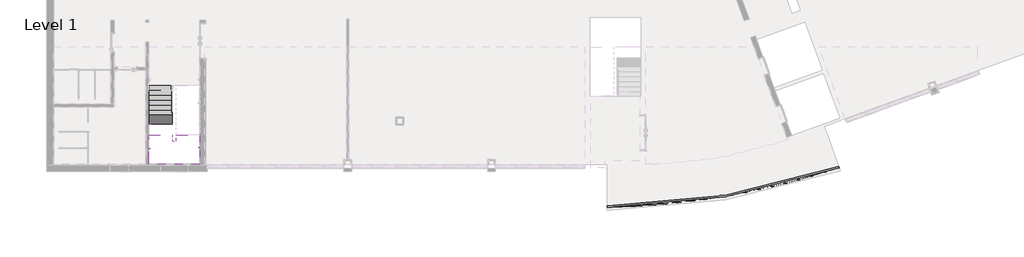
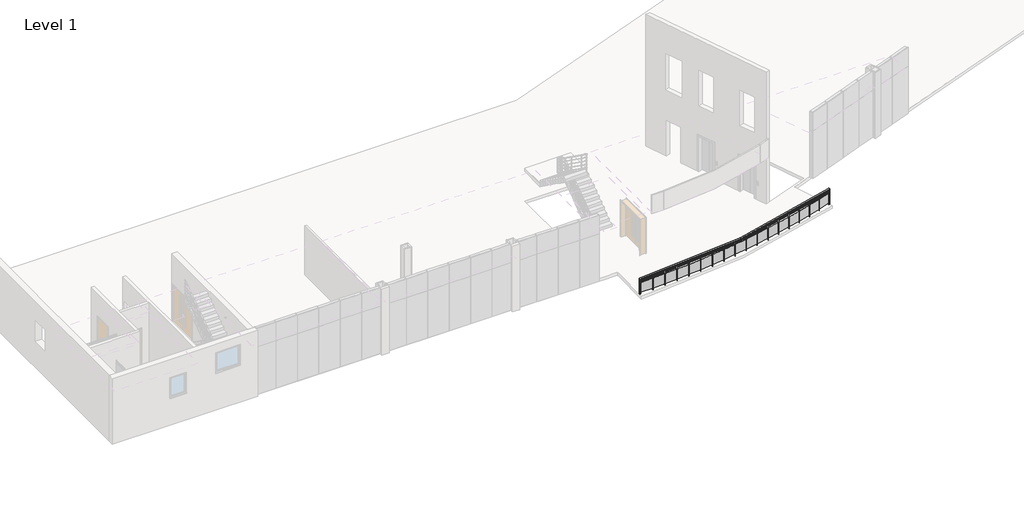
# One storey, part 8 of 12: 4 proxies, 1 railing, 1 slab, 1 stair flight.
"""IFC4 building model written with IfcOpenShell, lengths in millimetres."""

from ifc_helpers import new_model, si_unit, point, frame, frame_2d, origin, place, context, project, spatial, polyline, circle_curve, ellipse_curve, trimmed, segment, composite_curve, outline, extrude, faceted_brep, transform, mapped, element, save
from ifc_brep_helpers import plane_surface, revolved_surface, advanced_brep
from components import support_metal_circular_support_metal_circular_016e83f0

model = new_model("IFC4")

# Units and contexts
model_context = context("Model", 3, world=origin())
ifc_project = project(units=[si_unit("LENGTHUNIT", "METRE", prefix="MILLI")], contexts=[model_context])

# Site, building, storey
site = spatial("IfcSite", under=ifc_project)
building = spatial("IfcBuilding", under=site)
storey = spatial("IfcBuildingStorey", under=building, Name="Level 1", Elevation=3900.0)

# Proxies
placement = place(None, origin())
support_metal_circular_support_metal_circular_shape = support_metal_circular_support_metal_circular_016e83f0(model_context)
element("IfcBuildingElementProxy", 1, Name="Support - Metal - Circular : Support - Metal - Circular", ObjectType="Support - Metal - Circular : Support - Metal - Circular", at=placement, inside=storey, context=model_context, shape_type="MappedRepresentation", body=[
    mapped(support_metal_circular_support_metal_circular_shape, transform((5322.6000025, 3439.4755703, 5569.9627774), x_axis=(0.0, 1.0, 0.0), y_axis=(-1.0, 0.0, 0.0), z_axis=(0.0, 0.0, 1.0))),
])
element("IfcBuildingElementProxy", 2, Name="Support - Metal - Circular : Support - Metal - Circular", ObjectType="Support - Metal - Circular : Support - Metal - Circular", at=placement, inside=storey, context=model_context, shape_type="MappedRepresentation", body=[
    mapped(support_metal_circular_support_metal_circular_shape, transform((5322.6000025, 2334.2312733, 6353.6814608), x_axis=(0.0, 1.0, 0.0), y_axis=(-1.0, 0.0, 0.0), z_axis=(0.0, 0.0, 1.0))),
])
element("IfcBuildingElementProxy", 3, Name="Support - Metal - Circular : Support - Metal - Circular", ObjectType="Support - Metal - Circular : Support - Metal - Circular", at=placement, inside=storey, context=model_context, shape_type="MappedRepresentation", body=[
    mapped(support_metal_circular_support_metal_circular_shape, transform((5322.6000025, 1100.0, 6732.5), x_axis=(0.0, 1.0, 0.0), y_axis=(-1.0, 0.0, 0.0), z_axis=(0.0, 0.0, 1.0))),
])
element("IfcBuildingElementProxy", 4, Name="Support - Metal - Circular : Support - Metal - Circular", ObjectType="Support - Metal - Circular : Support - Metal - Circular", at=placement, inside=storey, context=model_context, shape_type="MappedRepresentation", body=[
    mapped(support_metal_circular_support_metal_circular_shape, transform((7761.8000024, 1150.0, 6732.5), x_axis=(0.0, -1.0, 0.0), y_axis=(1.0, 0.0, 0.0), z_axis=(0.0, 0.0, 1.0))),
])

# Railing
element("IfcRailing", 5, ObjectType="Glass_Panel-Bottom_Fill", at=placement, inside=storey, context=model_context, shape_type="SolidModel", body=[
    advanced_brep(
    [(40308.8689844, 181.3840931, 4800.0), (28548.6661194, -1809.3617636, 4800.0), (28549.739034, -1889.3545686, 4800.0), (40334.1834987, 105.4948622, 4800.0)],
    [
        (0, 1, circle_curve(frame((28028.1685328, 36997.1374158, 4800.0), z_axis=(0.0, 0.0, -1.0), x_axis=(0.013411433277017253, -0.9999100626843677, 0.0)), 38809.9896457)),
        (1, 2, ellipse_curve(frame((28549.2025767, -1849.3581661, 4800.0), z_axis=(0.9999100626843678, 0.013411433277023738, 0.0), x_axis=(0.013411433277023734, -0.9999100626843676, 0.0)), 40.0, 30.0)),
        (2, 3, circle_curve(frame((28028.1685328, 36997.1374158, 4800.0), z_axis=(0.0, 0.0, 1.0), x_axis=(0.013411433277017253, -0.9999100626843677, 0.0)), 38889.9896457)),
        (3, 0, ellipse_curve(frame((40321.5262416, 143.4394777, 4800.0), z_axis=(-0.9486153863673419, -0.3164314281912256, 0.0), x_axis=(0.3164314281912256, -0.9486153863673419, 0.0)), 40.0, 30.0)),
        (2, 1, ellipse_curve(frame((28549.2025767, -1849.3581661, 4800.0), z_axis=(0.9999100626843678, 0.013411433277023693, 0.0), x_axis=(0.013411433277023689, -0.9999100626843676, 0.0)), 40.0, 30.0)),
        (0, 3, ellipse_curve(frame((40321.5262416, 143.4394777, 4800.0), z_axis=(-0.9486153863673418, -0.31643142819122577, 0.0), x_axis=(0.31643142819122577, -0.9486153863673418, 0.0)), 40.0, 30.0)),
    ],
    [
        revolved_surface(trimmed(ellipse_curve(frame((28549.2025767, -1849.3581661, 4800.0), z_axis=(-0.9999100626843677, -0.013411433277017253, 0.0), x_axis=(0.013411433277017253, -0.9999100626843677, 0.0)), 40.0, 30.0), [point((28549.739034, -1889.3545686, 4800.0))], [point((28548.6661194, -1809.3617636, 4800.0))], True, "CARTESIAN"), (28028.1685328, 36997.1374158, 4800.0), (0.0, 0.0, 1.0)),
        revolved_surface(trimmed(ellipse_curve(frame((28549.2025767, -1849.3581661, 4800.0), z_axis=(-0.9999100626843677, -0.013411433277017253, 0.0), x_axis=(0.013411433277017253, -0.9999100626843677, 0.0)), 40.0, 30.0), [point((28548.6661194, -1809.3617636, 4800.0))], [point((28549.739034, -1889.3545686, 4800.0))], True, "CARTESIAN"), (28028.1685328, 36997.1374158, 4800.0), (0.0, 0.0, 1.0)),
        plane_surface(frame((28549.2025767, -1849.3581661, 4800.0), z_axis=(-0.9999100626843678, -0.013411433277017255, 0.0), x_axis=(0.013411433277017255, -0.9999100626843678, 0.0))),
        plane_surface(frame((40321.5262416, 143.4394777, 4800.0), z_axis=(0.9486153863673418, 0.3164314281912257, 0.0), x_axis=(0.3164314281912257, -0.9486153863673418, 0.0))),
    ],
    [
        (0, [[1, 2, 3, 4]]),
        (1, [[-3, 5, -1, 6]]),
        (2, [[-5, -2]]),
        (3, [[-4, -6]]),
    ],
),
    extrude(outline(composite_curve([segment(trimmed(circle_curve(frame_2d((28028.1685328, 36997.1374158)), 38859.3804108), [point((40324.4977748, 134.5312533))], [point((28549.3285203, -1858.7480867))], False, "CARTESIAN"), True, "CONTINUOUS"), segment(polyline([(28549.3285203, -1858.7480867), (28549.0602917, -1838.7498855)]), True, "CONTINUOUS"), segment(trimmed(circle_curve(frame_2d((28028.1685328, 36997.1374158)), 38839.3804108), [point((28549.0602917, -1838.7498855))], [point((40318.1691462, 153.5035611))], True, "CARTESIAN"), True, "CONTINUOUS"), segment(polyline([(40318.1691462, 153.5035611), (40324.4977748, 134.5312533)]), True, "CONTINUOUS")], self_intersect=False)), frame((0.0, 0.0, 4680.0), z_axis=(0.0, 0.0, 1.0), x_axis=(1.0, 0.0, 0.0)), (0.0, 0.0, 1.0), 20.0),
    extrude(outline(composite_curve([segment(trimmed(circle_curve(frame_2d((28028.1685328, 36997.1374158)), 38859.3804108), [point((40324.4977748, 134.5312533))], [point((28549.3285203, -1858.7480867))], False, "CARTESIAN"), True, "CONTINUOUS"), segment(polyline([(28549.3285203, -1858.7480867), (28549.0602917, -1838.7498855)]), True, "CONTINUOUS"), segment(trimmed(circle_curve(frame_2d((28028.1685328, 36997.1374158)), 38839.3804108), [point((28549.0602917, -1838.7498855))], [point((40318.1691462, 153.5035611))], True, "CARTESIAN"), True, "CONTINUOUS"), segment(polyline([(40318.1691462, 153.5035611), (40324.4977748, 134.5312533)]), True, "CONTINUOUS")], self_intersect=False)), frame((0.0, 0.0, 4580.0), z_axis=(0.0, 0.0, 1.0), x_axis=(1.0, 0.0, 0.0)), (0.0, 0.0, 1.0), 20.0),
    extrude(outline(polyline([(40266.4314409, 152.0906486), (40277.8190754, 155.8750613), (40293.5874619, 108.4265841), (40282.1998274, 104.6421714), (40266.4314409, 152.0906486)])), frame((0.0, 0.0, 3900.0), z_axis=(0.0, 0.0, 1.0), x_axis=(1.0, 0.0, 0.0)), (0.0, 0.0, 1.0), 869.8465326),
    extrude(outline(polyline([(39614.7863131, -87.6460581), (40281.0268462, 127.1178871), (40282.5608743, 122.3590262), (39616.3203413, -92.404919), (39614.7863131, -87.6460581)])), frame((0.0, 0.0, 4000.0), z_axis=(0.0, 0.0, 1.0), x_axis=(1.0, 0.0, 0.0)), (0.0, 0.0, 1.0), 580.0),
    extrude(outline(polyline([(39600.5954794, -62.4292958), (39612.0494504, -58.8506721), (39626.9603824, -106.5755515), (39615.5064114, -110.1541752), (39600.5954794, -62.4292958)])), frame((0.0, 0.0, 3900.0), z_axis=(0.0, 0.0, 1.0), x_axis=(1.0, 0.0, 0.0)), (0.0, 0.0, 1.0), 869.8465326),
    extrude(outline(polyline([(38944.7367146, -290.3861815), (39614.7385729, -87.6609738), (39616.1866101, -92.4467013), (38946.1847518, -295.1719091), (38944.7367146, -290.3861815)])), frame((0.0, 0.0, 4000.0), z_axis=(0.0, 0.0, 1.0), x_axis=(1.0, 0.0, 0.0)), (0.0, 0.0, 1.0), 580.0),
    extrude(outline(polyline([(38931.0025232, -264.9178317), (38942.5191122, -261.5461589), (38956.5677488, -309.5319464), (38945.0511598, -312.9036192), (38931.0025232, -264.9178317)])), frame((0.0, 0.0, 3900.0), z_axis=(0.0, 0.0, 1.0), x_axis=(1.0, 0.0, 0.0)), (0.0, 0.0, 1.0), 869.8465326),
    extrude(outline(polyline([(38271.1430463, -481.0208902), (38944.6887135, -290.4002347), (38946.0502896, -295.2112752), (38272.5046224, -485.8319306), (38271.1430463, -481.0208902)])), frame((0.0, 0.0, 4000.0), z_axis=(0.0, 0.0, 1.0), x_axis=(1.0, 0.0, 0.0)), (0.0, 0.0, 1.0), 580.0),
    extrude(outline(polyline([(38257.8699559, -455.309221), (38269.445424, -452.1455937), (38282.6272045, -500.3767109), (38271.0517364, -503.5403382), (38257.8699559, -455.309221)])), frame((0.0, 0.0, 3900.0), z_axis=(0.0, 0.0, 1.0), x_axis=(1.0, 0.0, 0.0)), (0.0, 0.0, 1.0), 869.8465326),
    extrude(outline(polyline([(37594.2239908, -659.4882942), (38271.0947997, -481.0340762), (38272.3694727, -485.8688677), (37595.4986637, -664.3230857), (37594.2239908, -659.4882942)])), frame((0.0, 0.0, 4000.0), z_axis=(0.0, 0.0, 1.0), x_axis=(1.0, 0.0, 0.0)), (0.0, 0.0, 1.0), 580.0),
    extrude(outline(polyline([(37581.4163106, -633.5416531), (37593.0468998, -630.5870983), (37605.3575445, -679.0478869), (37593.7269553, -682.0024416), (37581.4163106, -633.5416531)])), frame((0.0, 0.0, 3900.0), z_axis=(0.0, 0.0, 1.0), x_axis=(1.0, 0.0, 0.0)), (0.0, 0.0, 1.0), 869.8465326),
    extrude(outline(polyline([(36914.1993101, -825.7304543), (37594.1755144, -659.5006088), (37595.3628705, -664.3575817), (36915.3866661, -830.5874272), (36914.1993101, -825.7304543)])), frame((0.0, 0.0, 4000.0), z_axis=(0.0, 0.0, 1.0), x_axis=(1.0, 0.0, 0.0)), (0.0, 0.0, 1.0), 580.0),
    extrude(outline(polyline([(36901.8611981, -799.5572647), (36913.5431326, -796.8127417), (36924.9786449, -845.4874688), (36913.2967104, -848.2319918), (36901.8611981, -799.5572647)])), frame((0.0, 0.0, 3900.0), z_axis=(0.0, 0.0, 1.0), x_axis=(1.0, 0.0, 0.0)), (0.0, 0.0, 1.0), 869.8465326),
    extrude(outline(polyline([(36231.2897746, -979.6933996), (36914.1506197, -825.7418934), (36915.2502733, -830.6194709), (36232.3894282, -984.5709771), (36231.2897746, -979.6933996)])), frame((0.0, 0.0, 4000.0), z_axis=(0.0, 0.0, 1.0), x_axis=(1.0, 0.0, 0.0)), (0.0, 0.0, 1.0), 580.0),
    extrude(outline(polyline([(36219.4252364, -953.3021588), (36231.1547236, -950.7685586), (36241.7113911, -999.6414219), (36229.9819039, -1002.1750221), (36219.4252364, -953.3021588)])), frame((0.0, 0.0, 3900.0), z_axis=(0.0, 0.0, 1.0), x_axis=(1.0, 0.0, 0.0)), (0.0, 0.0, 1.0), 869.8465326),
    extrude(outline(polyline([(35545.7170914, -1121.3271461), (36231.2408861, -979.7039597), (36232.2524803, -984.6005582), (35546.7286856, -1126.2237447), (35545.7170914, -1121.3271461)])), frame((0.0, 0.0, 4000.0), z_axis=(0.0, 0.0, 1.0), x_axis=(1.0, 0.0, 0.0)), (0.0, 0.0, 1.0), 580.0),
    extrude(outline(polyline([(35534.3299789, -1094.726422), (35546.1032108, -1092.4045671), (35555.7776061, -1141.4597001), (35544.0043741, -1143.781555), (35534.3299789, -1094.726422)])), frame((0.0, 0.0, 3900.0), z_axis=(0.0, 0.0, 1.0), x_axis=(1.0, 0.0, 0.0)), (0.0, 0.0, 1.0), 869.8465326),
    extrude(outline(polyline([(34857.703832, -1250.5857124), (35545.6680206, -1121.3368236), (35546.5912269, -1126.2508536), (34858.6270383, -1255.4997423), (34857.703832, -1250.5857124)])), frame((0.0, 0.0, 4000.0), z_axis=(0.0, 0.0, 1.0), x_axis=(1.0, 0.0, 0.0)), (0.0, 0.0, 1.0), 580.0),
    extrude(outline(polyline([(34846.7978419, -1223.7841408), (34858.6109963, -1221.674785), (34867.3999787, -1270.8962619), (34855.5868242, -1273.0056177), (34846.7978419, -1223.7841408)])), frame((0.0, 0.0, 3900.0), z_axis=(0.0, 0.0, 1.0), x_axis=(1.0, 0.0, 0.0)), (0.0, 0.0, 1.0), 869.8465326),
    extrude(outline(polyline([(34167.4733602, -1367.4271344), (34857.6545947, -1250.5945042), (34858.4891135, -1255.5243701), (34168.307879, -1372.3570004), (34167.4733602, -1367.4271344)])), frame((0.0, 0.0, 4000.0), z_axis=(0.0, 0.0, 1.0), x_axis=(1.0, 0.0, 0.0)), (0.0, 0.0, 1.0), 580.0),
    extrude(outline(polyline([(34157.0520331, -1340.4334166), (34168.901275, -1338.5372447), (34176.8019911, -1387.9090857), (34164.9527492, -1389.8052576), (34157.0520331, -1340.4334166)])), frame((0.0, 0.0, 3900.0), z_axis=(0.0, 0.0, 1.0), x_axis=(1.0, 0.0, 0.0)), (0.0, 0.0, 1.0), 869.8465326),
    extrude(outline(polyline([(33475.2497597, -1471.8134797), (34167.4239725, -1367.4350377), (34168.1695328, -1372.3791392), (33475.99532, -1476.7575812), (33475.2497597, -1471.8134797)])), frame((0.0, 0.0, 4000.0), z_axis=(0.0, 0.0, 1.0), x_axis=(1.0, 0.0, 0.0)), (0.0, 0.0, 1.0), 580.0),
    extrude(outline(polyline([(33465.3164791, -1444.6363791), (33477.1979614, -1442.9540068), (33484.2078462, -1492.4601833), (33472.3263639, -1494.1425556), (33465.3164791, -1444.6363791)])), frame((0.0, 0.0, 3900.0), z_axis=(0.0, 0.0, 1.0), x_axis=(1.0, 0.0, 0.0)), (0.0, 0.0, 1.0), 869.8465326),
    extrude(outline(polyline([(32781.2577613, -1563.7108591), (33475.2002376, -1471.8204918), (33475.8565974, -1476.7772238), (32781.9141211, -1568.667591), (32781.2577613, -1563.7108591)])), frame((0.0, 0.0, 4000.0), z_axis=(0.0, 0.0, 1.0), x_axis=(1.0, 0.0, 0.0)), (0.0, 0.0, 1.0), 580.0),
    extrude(outline(polyline([(32771.8157519, -1536.3591988), (32783.7256175, -1534.8911722), (32789.8423953, -1584.515612), (32777.9325297, -1585.9836387), (32771.8157519, -1536.3591988)])), frame((0.0, 0.0, 3900.0), z_axis=(0.0, 0.0, 1.0), x_axis=(1.0, 0.0, 0.0)), (0.0, 0.0, 1.0), 869.8465326),
    extrude(outline(polyline([(32085.72267, -1643.089438), (32781.208121, -1563.7169778), (32781.7750671, -1568.684731), (32086.2896161, -1648.0571912), (32085.72267, -1643.089438)])), frame((0.0, 0.0, 4000.0), z_axis=(0.0, 0.0, 1.0), x_axis=(1.0, 0.0, 0.0)), (0.0, 0.0, 1.0), 580.0),
    extrude(outline(polyline([(32076.7749971, -1615.5720979), (32088.7093793, -1614.3188935), (32093.9310643, -1664.045486), (32081.9966821, -1665.2986904), (32076.7749971, -1615.5720979)])), frame((0.0, 0.0, 3900.0), z_axis=(0.0, 0.0, 1.0), x_axis=(1.0, 0.0, 0.0)), (0.0, 0.0, 1.0), 869.8465326),
    extrude(outline(polyline([(31388.8702915, -1709.9234463), (32085.6729274, -1643.0946614), (32086.1502759, -1648.0718231), (31389.3476399, -1714.900608), (31388.8702915, -1709.9234463)])), frame((0.0, 0.0, 4000.0), z_axis=(0.0, 0.0, 1.0), x_axis=(1.0, 0.0, 0.0)), (0.0, 0.0, 1.0), 580.0),
    extrude(outline(polyline([(31380.4198601, -1682.2493597), (31392.3748844, -1681.2113844), (31396.6997813, -1731.0239859), (31384.7447569, -1732.0619612), (31380.4198601, -1682.2493597)])), frame((0.0, 0.0, 3900.0), z_axis=(0.0, 0.0, 1.0), x_axis=(1.0, 0.0, 0.0)), (0.0, 0.0, 1.0), 869.8465326),
    extrude(outline(polyline([(30690.9268593, -1764.1911861), (31388.8204629, -1709.9277726), (31389.2080587, -1714.9127269), (30691.3144551, -1769.1761404), (30690.9268593, -1764.1911861)])), frame((0.0, 0.0, 4000.0), z_axis=(0.0, 0.0, 1.0), x_axis=(1.0, 0.0, 0.0)), (0.0, 0.0, 1.0), 580.0),
    extrude(outline(polyline([(30682.9764127, -1736.3693375), (30694.948198, -1735.5469284), (30698.3749028, -1785.4293671), (30686.4031175, -1786.2517763), (30682.9764127, -1736.3693375)])), frame((0.0, 0.0, 3900.0), z_axis=(0.0, 0.0, 1.0), x_axis=(1.0, 0.0, 0.0)), (0.0, 0.0, 1.0), 869.8465326),
    extrude(outline(polyline([(29992.1189611, -1805.8750395), (30690.8769608, -1764.1946139), (30691.1746782, -1769.1857425), (29992.4166785, -1810.8661681), (29992.1189611, -1805.8750395)])), frame((0.0, 0.0, 4000.0), z_axis=(0.0, 0.0, 1.0), x_axis=(1.0, 0.0, 0.0)), (0.0, 0.0, 1.0), 580.0),
    extrude(outline(polyline([(29984.6710806, -1777.9144613), (29996.6557402, -1777.3078852), (29999.1831403, -1827.2439669), (29987.1984807, -1827.8505429), (29984.6710806, -1777.9144613)])), frame((0.0, 0.0, 3900.0), z_axis=(0.0, 0.0, 1.0), x_axis=(1.0, 0.0, 0.0)), (0.0, 0.0, 1.0), 869.8465326),
    extrude(outline(polyline([(29292.6734654, -1834.9614737), (29992.069009, -1805.8775677), (29992.2767512, -1810.8732502), (29292.8812076, -1839.9571562), (29292.6734654, -1834.9614737)])), frame((0.0, 0.0, 4000.0), z_axis=(0.0, 0.0, 1.0), x_axis=(1.0, 0.0, 0.0)), (0.0, 0.0, 1.0), 580.0),
    extrude(outline(polyline([(29285.7305689, -1806.8712433), (29297.7242119, -1806.4806973), (29299.3514869, -1856.45421), (29287.3578438, -1856.844756), (29285.7305689, -1806.8712433)])), frame((0.0, 0.0, 3900.0), z_axis=(0.0, 0.0, 1.0), x_axis=(1.0, 0.0, 0.0)), (0.0, 0.0, 1.0), 869.8465326),
    extrude(outline(polyline([(28592.8174475, -1851.4410459), (29292.6234759, -1834.9631015), (29292.7411755, -1839.961716), (28592.9351471, -1856.4396604), (28592.8174475, -1851.4410459)])), frame((0.0, 0.0, 4000.0), z_axis=(0.0, 0.0, 1.0), x_axis=(1.0, 0.0, 0.0)), (0.0, 0.0, 1.0), 580.0),
    extrude(outline(polyline([(28586.3817889, -1823.2302827), (28598.3805217, -1823.0558936), (28599.1071432, -1873.0506135), (28587.1084105, -1873.2250027), (28586.3817889, -1823.2302827)])), frame((0.0, 0.0, 3900.0), z_axis=(0.0, 0.0, 1.0), x_axis=(1.0, 0.0, 0.0)), (0.0, 0.0, 1.0), 869.8465326),
    extrude(outline(polyline([(40305.8348586, 165.2020895), (40317.2184387, 168.9986806), (40333.0375683, 121.5670968), (40321.6539882, 117.7705057), (40305.8348586, 165.2020895)])), frame((0.0, 0.0, 3900.0), z_axis=(0.0, 0.0, 1.0), x_axis=(1.0, 0.0, 0.0)), (0.0, 0.0, 1.0), 869.8465326),
    extrude(outline(polyline([(28544.8581965, -1823.8051549), (28556.8571089, -1823.6436), (28557.5302544, -1873.6390686), (28545.5313419, -1873.8006235), (28544.8581965, -1823.8051549)])), frame((0.0, 0.0, 3900.0), z_axis=(0.0, 0.0, 1.0), x_axis=(1.0, 0.0, 0.0)), (0.0, 0.0, 1.0), 869.8465326),
])

# Slab
element("IfcSlab", 6, ObjectType="8\" Thickness", at=placement, inside=storey, context=model_context, shape_type="SolidModel", body=[
    faceted_brep([(6447.2000025, 1800.0, 5849.0), (5247.2000025, 1800.0, 5849.0), (5247.2000025, 1572.7280846, 5849.0), (5247.2000025, 300.0000001, 5849.0), (7837.2000024, 300.0000001, 5849.0), (7837.2000024, 1777.2719153, 5849.0), (7837.2000024, 1800.0, 5849.0), (6637.2000026, 1800.0, 5849.0), (6637.2000026, 1777.2719153, 5849.0), (6637.2000026, 1500.0, 5849.0), (6447.2000025, 1500.0, 5849.0), (6447.2000025, 1572.7280846, 5849.0), (6447.2000025, 1800.0, 5487.8435509), (6447.2000025, 1800.0, 5671.7272727), (6447.2000025, 1500.0, 5649.0), (6447.2000025, 1572.7280846, 5649.0), (5247.2000025, 1800.0, 5671.7272727), (5247.2000025, 1800.0, 5487.8435509), (5247.2000025, 1572.7280846, 5649.0), (5247.2000025, 300.0000001, 5649.0), (6637.2000026, 1800.0, 5665.1162782), (6637.2000026, 1777.2719153, 5649.0), (6637.2000026, 1500.0, 5649.0), (7837.2000024, 1777.2719153, 5649.0), (7837.2000024, 300.0000001, 5649.0), (7837.2000024, 1800.0, 5665.1162782)], [[[0, 1, 2, 3, 4, 5, 6, 7, 8, 9, 10, 11]], [[12, 13, 0, 11, 10, 14, 15]], [[1, 16, 17, 18, 19, 3, 2]], [[7, 20, 21, 22, 9, 8]], [[18, 15, 14, 22, 21, 23, 24, 19]], [[15, 18, 17, 12]], [[23, 21, 20, 25]], [[1, 0, 13, 12, 17, 16]], [[4, 3, 19, 24]], [[4, 24, 23, 25, 6, 5]], [[7, 6, 25, 20]], [[10, 9, 22, 14]]]),
    extrude(outline(polyline([(6447.2000025, 1800.0), (6447.2000025, 1500.0), (6637.2000026, 1500.0), (6637.2000026, 1800.0), (7837.2000024, 1800.0), (7837.2000024, 300.0000001), (5247.2000025, 300.0000001), (5247.2000025, 1800.0), (6447.2000025, 1800.0)])), frame((0.0, 0.0, 5849.0), z_axis=(0.0, 0.0, 1.0), x_axis=(1.0, 0.0, 0.0)), (0.0, 0.0, 1.0), 1.0),
])

# Stair flight
element("IfcStairFlight", 7, ObjectType="1/16\"_Tread-6\"_Depth", at=placement, inside=storey, context=model_context, shape_type="SolidModel", body=[
    faceted_brep([(6447.2000025, 4050.0, 4076.2727273), (6447.2000025, 4300.0, 4076.2727273), (5247.2000025, 4300.0, 4076.2727273), (5247.2000025, 4050.0, 4076.2727273), (6447.2000025, 4050.0, 3900.0), (6447.2000025, 4300.0, 3900.0), (5247.2000025, 4300.0, 3900.0), (5247.2000025, 4050.0, 3900.0), (6447.2000025, 3800.0, 4253.5454545), (6447.2000025, 4050.0, 4253.5454545), (5247.2000025, 4050.0, 4253.5454545), (5247.2000025, 3800.0, 4253.5454545), (6447.2000025, 3800.0, 4069.6617328), (6447.2000025, 4039.2665462, 3900.0), (5247.2000025, 4039.2665462, 3900.0), (5247.2000025, 3800.0, 4069.6617328), (6447.2000025, 3550.0, 4430.8181818), (6447.2000025, 3800.0, 4430.8181818), (5247.2000025, 3800.0, 4430.8181818), (5247.2000025, 3550.0, 4430.8181818), (6447.2000025, 3550.0, 4246.93446), (5247.2000025, 3550.0, 4246.93446), (6447.2000025, 3300.0, 4608.0909091), (6447.2000025, 3550.0, 4608.0909091), (5247.2000025, 3550.0, 4608.0909091), (5247.2000025, 3300.0, 4608.0909091), (6447.2000025, 3300.0, 4424.2071873), (5247.2000025, 3300.0, 4424.2071873), (6447.2000025, 3050.0, 4785.3636364), (6447.2000025, 3300.0, 4785.3636364), (5247.2000025, 3300.0, 4785.3636364), (5247.2000025, 3050.0, 4785.3636364), (6447.2000025, 3050.0, 4601.4799146), (5247.2000025, 3050.0, 4601.4799146), (6447.2000025, 2800.0, 4962.6363636), (6447.2000025, 3050.0, 4962.6363636), (5247.2000025, 3050.0, 4962.6363636), (5247.2000025, 2800.0, 4962.6363636), (6447.2000025, 2800.0, 4778.7526418), (5247.2000025, 2800.0, 4778.7526418), (6447.2000025, 2550.0, 5139.9090909), (6447.2000025, 2800.0, 5139.9090909), (5247.2000025, 2800.0, 5139.9090909), (5247.2000025, 2550.0, 5139.9090909), (6447.2000025, 2550.0, 4956.0253691), (5247.2000025, 2550.0, 4956.0253691), (6447.2000025, 2300.0, 5317.1818182), (6447.2000025, 2550.0, 5317.1818182), (5247.2000025, 2550.0, 5317.1818182), (5247.2000025, 2300.0, 5317.1818182), (6447.2000025, 2300.0, 5133.2980964), (5247.2000025, 2300.0, 5133.2980964), (6447.2000025, 2050.0, 5494.4545455), (6447.2000025, 2300.0, 5494.4545455), (5247.2000025, 2300.0, 5494.4545455), (5247.2000025, 2050.0, 5494.4545455), (6447.2000025, 2050.0, 5310.5708237), (5247.2000025, 2050.0, 5310.5708237), (6447.2000025, 1800.0, 5487.8435509), (5247.2000025, 1800.0, 5487.8435509), (6447.2000025, 1800.0, 5671.7272727), (6447.2000025, 2050.0, 5671.7272727), (5247.2000025, 2050.0, 5671.7272727), (5247.2000025, 1800.0, 5671.7272727)], [[[0, 1, 2, 3]], [[1, 0, 4, 5]], [[2, 1, 5, 6]], [[3, 2, 6, 7]], [[8, 9, 10, 11]], [[4, 0, 9, 8, 12, 13]], [[0, 3, 10, 9]], [[3, 7, 14, 15, 11, 10]], [[16, 17, 18, 19]], [[17, 16, 20, 12, 8]], [[8, 11, 18, 17]], [[19, 18, 11, 15, 21]], [[22, 23, 24, 25]], [[23, 22, 26, 20, 16]], [[16, 19, 24, 23]], [[25, 24, 19, 21, 27]], [[28, 29, 30, 31]], [[29, 28, 32, 26, 22]], [[22, 25, 30, 29]], [[31, 30, 25, 27, 33]], [[34, 35, 36, 37]], [[35, 34, 38, 32, 28]], [[28, 31, 36, 35]], [[37, 36, 31, 33, 39]], [[40, 41, 42, 43]], [[41, 40, 44, 38, 34]], [[34, 37, 42, 41]], [[43, 42, 37, 39, 45]], [[46, 47, 48, 49]], [[47, 46, 50, 44, 40]], [[40, 43, 48, 47]], [[49, 48, 43, 45, 51]], [[52, 53, 54, 55]], [[53, 52, 56, 50, 46]], [[46, 49, 54, 53]], [[55, 54, 49, 51, 57]], [[5, 4, 13, 14, 7, 6]], [[14, 13, 12, 20, 26, 32, 38, 44, 50, 56, 58, 59, 57, 51, 45, 39, 33, 27, 21, 15]], [[60, 61, 62, 63]], [[61, 60, 58, 56, 52]], [[52, 55, 62, 61]], [[63, 62, 55, 57, 59]], [[60, 63, 59, 58]]]),
    extrude(outline(polyline([(6447.2000025, 4050.0), (5247.2000025, 4050.0), (5247.2000025, 4300.0), (6447.2000025, 4300.0), (6447.2000025, 4050.0)])), frame((0.0, 0.0, 4076.2727273), z_axis=(0.0, 0.0, 1.0), x_axis=(1.0, 0.0, 0.0)), (0.0, 0.0, 1.0), 1.0),
    extrude(outline(polyline([(6447.2000025, 3800.0), (5247.2000025, 3800.0), (5247.2000025, 4050.0), (6447.2000025, 4050.0), (6447.2000025, 3800.0)])), frame((0.0, 0.0, 4253.5454545), z_axis=(0.0, 0.0, 1.0), x_axis=(1.0, 0.0, 0.0)), (0.0, 0.0, 1.0), 1.0),
    extrude(outline(polyline([(6447.2000025, 3550.0), (5247.2000025, 3550.0), (5247.2000025, 3800.0), (6447.2000025, 3800.0), (6447.2000025, 3550.0)])), frame((0.0, 0.0, 4430.8181818), z_axis=(0.0, 0.0, 1.0), x_axis=(1.0, 0.0, 0.0)), (0.0, 0.0, 1.0), 1.0),
    extrude(outline(polyline([(6447.2000025, 3300.0), (5247.2000025, 3300.0), (5247.2000025, 3550.0), (6447.2000025, 3550.0), (6447.2000025, 3300.0)])), frame((0.0, 0.0, 4608.0909091), z_axis=(0.0, 0.0, 1.0), x_axis=(1.0, 0.0, 0.0)), (0.0, 0.0, 1.0), 1.0),
    extrude(outline(polyline([(6447.2000025, 3050.0), (5247.2000025, 3050.0), (5247.2000025, 3300.0), (6447.2000025, 3300.0), (6447.2000025, 3050.0)])), frame((0.0, 0.0, 4785.3636364), z_axis=(0.0, 0.0, 1.0), x_axis=(1.0, 0.0, 0.0)), (0.0, 0.0, 1.0), 1.0),
    extrude(outline(polyline([(6447.2000025, 2800.0), (5247.2000025, 2800.0), (5247.2000025, 3050.0), (6447.2000025, 3050.0), (6447.2000025, 2800.0)])), frame((0.0, 0.0, 4962.6363636), z_axis=(0.0, 0.0, 1.0), x_axis=(1.0, 0.0, 0.0)), (0.0, 0.0, 1.0), 1.0),
    extrude(outline(polyline([(6447.2000025, 2550.0), (5247.2000025, 2550.0), (5247.2000025, 2800.0), (6447.2000025, 2800.0), (6447.2000025, 2550.0)])), frame((0.0, 0.0, 5139.9090909), z_axis=(0.0, 0.0, 1.0), x_axis=(1.0, 0.0, 0.0)), (0.0, 0.0, 1.0), 1.0),
    extrude(outline(polyline([(6447.2000025, 2300.0), (5247.2000025, 2300.0), (5247.2000025, 2550.0), (6447.2000025, 2550.0), (6447.2000025, 2300.0)])), frame((0.0, 0.0, 5317.1818182), z_axis=(0.0, 0.0, 1.0), x_axis=(1.0, 0.0, 0.0)), (0.0, 0.0, 1.0), 1.0),
    extrude(outline(polyline([(6447.2000025, 2050.0), (5247.2000025, 2050.0), (5247.2000025, 2300.0), (6447.2000025, 2300.0), (6447.2000025, 2050.0)])), frame((0.0, 0.0, 5494.4545455), z_axis=(0.0, 0.0, 1.0), x_axis=(1.0, 0.0, 0.0)), (0.0, 0.0, 1.0), 1.0),
    extrude(outline(polyline([(6447.2000025, 1800.0), (5247.2000025, 1800.0), (5247.2000025, 2050.0), (6447.2000025, 2050.0), (6447.2000025, 1800.0)])), frame((0.0, 0.0, 5671.7272727), z_axis=(0.0, 0.0, 1.0), x_axis=(1.0, 0.0, 0.0)), (0.0, 0.0, 1.0), 1.0),
])

save(model, "model.ifc")
